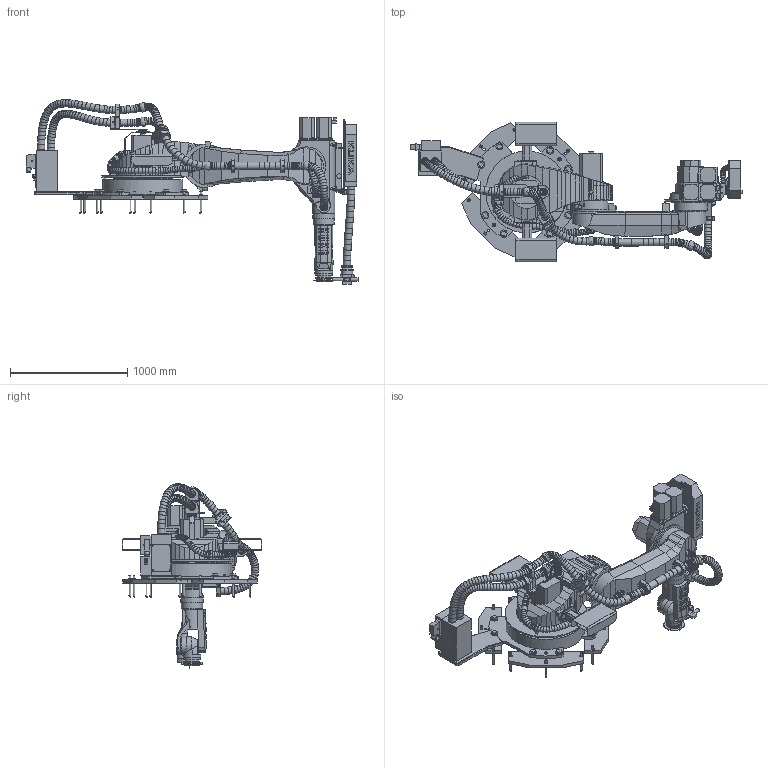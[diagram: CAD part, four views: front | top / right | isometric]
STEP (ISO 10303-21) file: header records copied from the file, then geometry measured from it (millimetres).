
FILE_DESCRIPTION(/* description */ (''),/* implementation_level */ '2;1');
FILE_NAME(/* name */ 'KR30-4_KS_KR60-3_KS__KR30-4_KS_KR60-4_KS.stp',/* time_stamp */ '2019-01-08T10:55:04+01:00',/* author */ (''),/* organization */ (''),/* preprocessor_version */ 'ST-DEVELOPER v15',/* originating_system */ 'SIEMENS PLM Software NX 9.0',/* authorisation */ '');
FILE_SCHEMA (('AUTOMOTIVE_DESIGN { 1 0 10303 214 3 1 1 1 }'));
Length unit declared in the file: millimetre
Products named in the file (1): KR30-4_KS_KR60-3_KS__KR30-4_KS_KR60-4_KS
Bounding box: 2834.14 x 1190 x 1575.69 mm (x, y, z)
Volume: 343550427.1 mm3; surface area: 13789675.3 mm2
Topology: 138 solids, 139 shells, 3271 faces, 7737 edges, 4896 vertices
Faces by surface type: plane 1872, cylinder 682, torus 405, cone 261, extrusion 30, bspline 15, sphere 6
Full cylindrical faces by diameter (mm): 3 x4, 5 x11, 6 x3, 6.4 x12, 6.6 x8, 6.8 x10, 6.985 x21, 7 x10, 7.8 x1, 8 x9, 8.4 x10, 8.5 x4, 8.782 x3, 9 x48, 10 x6, 11 x7, 13 x2, 14 x12, 15 x2, 16 x24, 17 x9, 18 x2, 19 x13, 20 x7, 21.564 x12, 23 x1, 24 x9, 25 x10, 30 x7, 31 x9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
Entity records: 101035 total; most frequent: CARTESIAN_POINT 19156, DIRECTION 14667, ORIENTED_EDGE 13366, EDGE_CURVE 6683, AXIS2_PLACEMENT_3D 5350, VERTEX_POINT 4732, EDGE_LOOP 4691, VECTOR 3967
